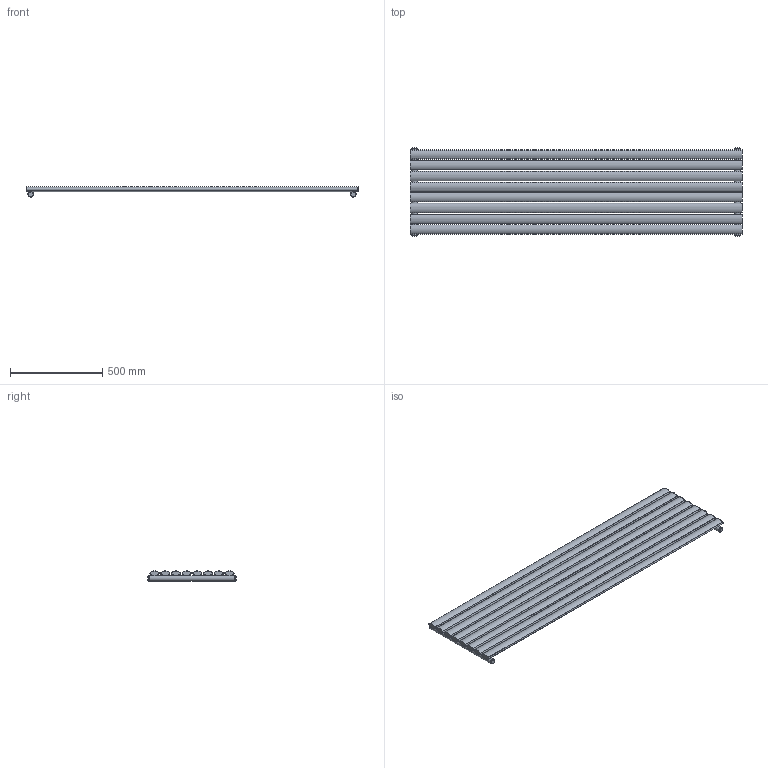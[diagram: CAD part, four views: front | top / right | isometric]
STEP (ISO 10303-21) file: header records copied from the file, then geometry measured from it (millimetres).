
FILE_DESCRIPTION(/* description */ (''),/* implementation_level */ '2;1');
FILE_NAME(/* name */ 'C:\Grzejniki\13DLUXRAD\pokojowe\FORTUNA\FORTUNA POJEDYNCZA 1800x468.iam.stp',/* time_stamp */ '2016-06-28T17:32:18+02:00',/* author */ ('m.szydziak'),/* organization */ (''),/* preprocessor_version */ 'ST-DEVELOPER v16.5',/* originating_system */ 'Autodesk Inventor 2017',/* authorisation */ '');
FILE_SCHEMA (('AUTOMOTIVE_DESIGN { 1 0 10303 214 3 1 1 }'));
Length unit declared in the file: millimetre
Products named in the file (5): FORTUNA POJEDYNCZA 1800x468; %%c30x1,5x468; 50x25x1,2x1800; zaślepka fi30 G0,5inch; korek
Assembly tree (18 placements, depth 2):
  FORTUNA POJEDYNCZA 1800x468
    %%c30x1,5x468  x2
    50x25x1,2x1800  x8
    zaślepka fi30 G0,5inch  x4
    korek  x4
Bounding box: 1800 x 480 x 54.86 mm (x, y, z)
Volume: 2169910 mm3; surface area: 3564173 mm2
Topology: 18 solids, 18 shells, 196 faces, 468 edges, 324 vertices
Faces by surface type: plane 100, cylinder 96
Full cylindrical faces by diameter (mm): 5.8 x16, 18.631 x4, 24 x4, 27 x6, 30 x2
Entity records: 1391 total; most frequent: CARTESIAN_POINT 326, DIRECTION 226, ORIENTED_EDGE 150, AXIS2_PLACEMENT_3D 97, EDGE_CURVE 75, VERTEX_POINT 55, EDGE_LOOP 52, FACE_OUTER_BOUND 37
